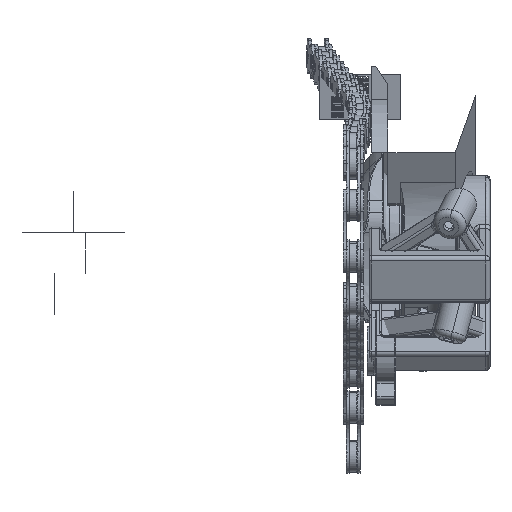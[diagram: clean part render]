
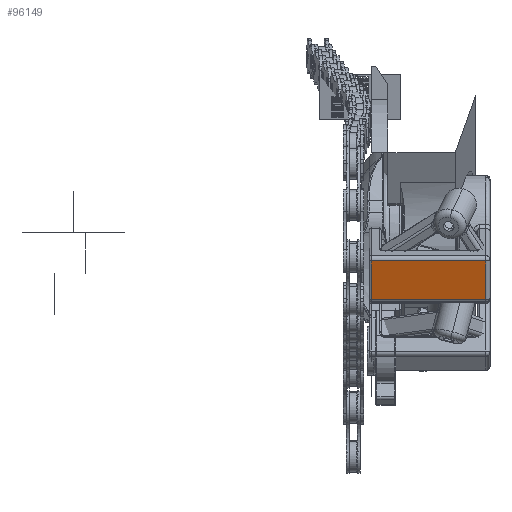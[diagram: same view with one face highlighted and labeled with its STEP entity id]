
A CAD part, front view. The second image highlights one B-rep face of the part: STEP entity #96149.
In plain terms, the highlighted planar face has unit normal (0, -0.94, -0.342) as drawn and (0, -0.342, -0.94) by its records, which use the part's own axes.
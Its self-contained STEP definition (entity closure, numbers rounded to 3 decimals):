
#85236=DIRECTION('',(0.,0.94,-0.342));
#85237=VECTOR('',#85236,10.);
#85238=CARTESIAN_POINT('',(-1.1,-16.327,-30.239));
#85239=LINE('',#85238,#85237);
#85240=DIRECTION('',(1.,0.,0.));
#85241=VECTOR('',#85240,28.1);
#85242=CARTESIAN_POINT('',(-1.1,-16.327,-30.239));
#85243=LINE('',#85242,#85241);
#85244=DIRECTION('',(0.,0.94,-0.342));
#85245=VECTOR('',#85244,10.);
#85246=CARTESIAN_POINT('',(27.,-16.327,-30.239));
#85247=LINE('',#85246,#85245);
#85248=DIRECTION('',(-1.,0.,0.));
#85249=VECTOR('',#85248,28.1);
#85250=CARTESIAN_POINT('',(27.,-6.93,-33.66));
#85251=LINE('',#85250,#85249);
#92475=CARTESIAN_POINT('',(27.,-16.327,-30.239));
#92476=VERTEX_POINT('',#92475);
#92477=CARTESIAN_POINT('',(27.,-6.93,-33.66));
#92478=VERTEX_POINT('',#92477);
#92533=CARTESIAN_POINT('',(-1.1,-6.93,-33.66));
#92534=VERTEX_POINT('',#92533);
#92537=CARTESIAN_POINT('',(-1.1,-16.327,-30.239));
#92538=VERTEX_POINT('',#92537);
#96135=CARTESIAN_POINT('',(28.,-17.267,-29.897));
#96136=DIRECTION('',(0.,-0.342,-0.94));
#96137=DIRECTION('',(-1.,0.,0.));
#96138=AXIS2_PLACEMENT_3D('',#96135,#96136,#96137);
#96139=PLANE('',#96138);
#96141=ORIENTED_EDGE('',*,*,#96140,.F.);
#96143=ORIENTED_EDGE('',*,*,#96142,.T.);
#96145=ORIENTED_EDGE('',*,*,#96144,.T.);
#96146=ORIENTED_EDGE('',*,*,#96127,.T.);
#96147=EDGE_LOOP('',(#96141,#96143,#96145,#96146));
#96148=FACE_OUTER_BOUND('',#96147,.F.);
#96149=ADVANCED_FACE('',(#96148),#96139,.T.);
#96127=EDGE_CURVE('',#92478,#92534,#85251,.T.);
#96140=EDGE_CURVE('',#92538,#92534,#85239,.T.);
#96142=EDGE_CURVE('',#92538,#92476,#85243,.T.);
#96144=EDGE_CURVE('',#92476,#92478,#85247,.T.);
